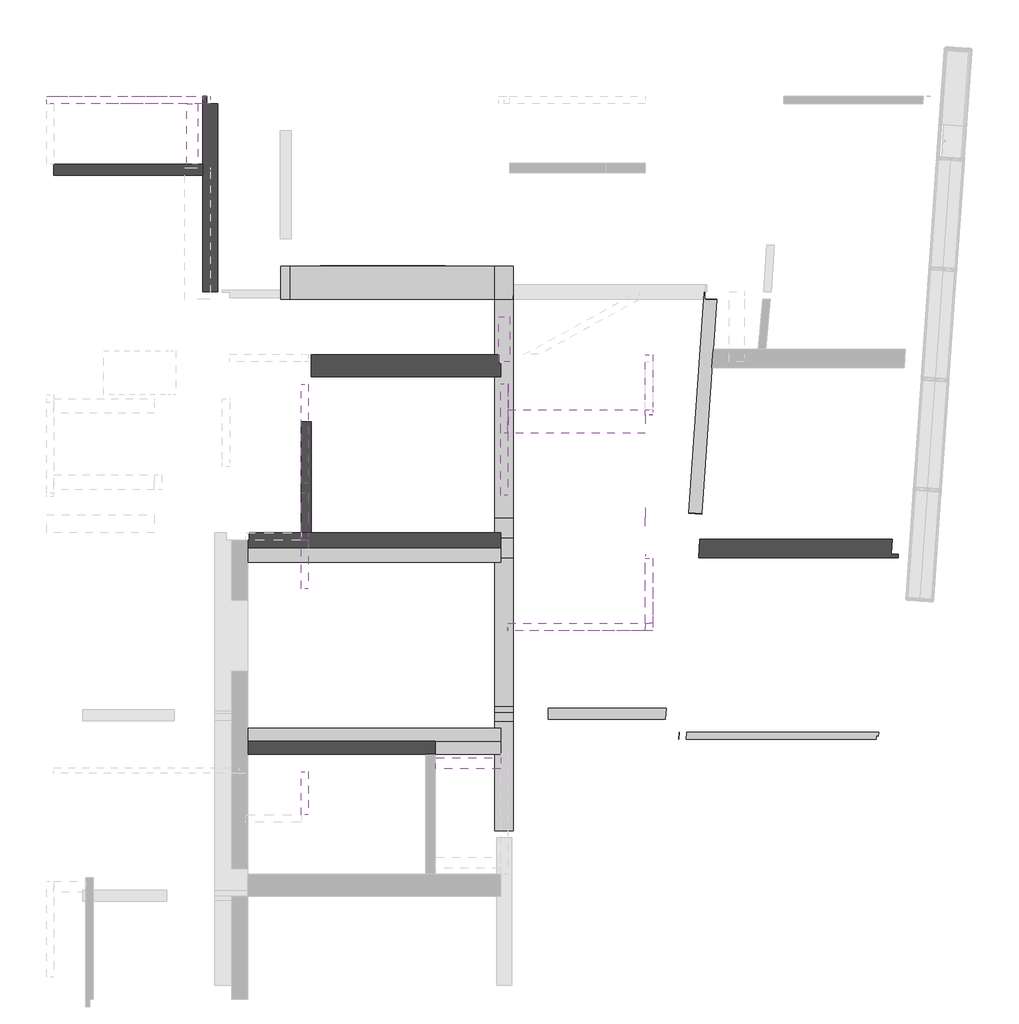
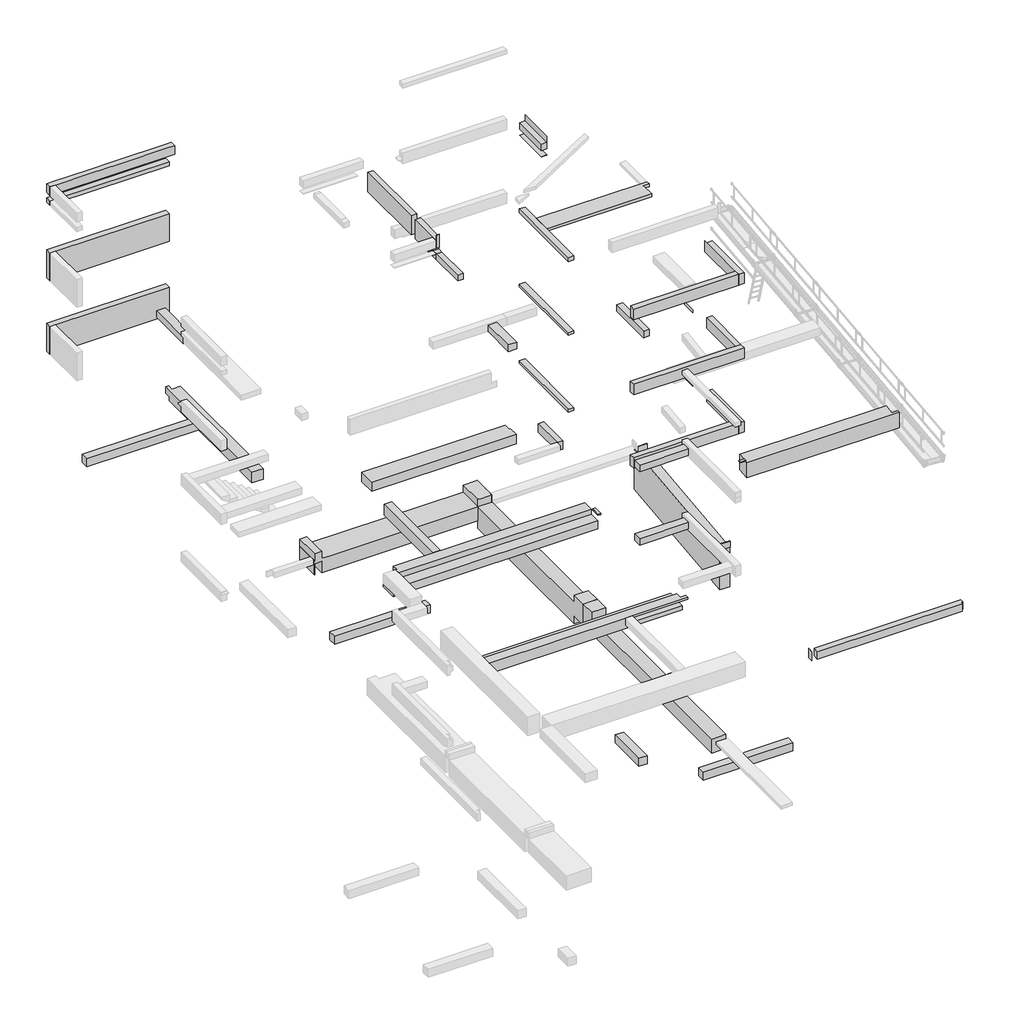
# One storey, part 2 of 3: 41 beams.
"""IFC4 building model written with IfcOpenShell, lengths in millimetres."""

from ifc_helpers import new_model, si_unit, frame, origin, place, context, project, spatial, polyline, outline, extrude, faceted_brep, element, save

model = new_model("IFC4")

# Units and contexts
model_context = context("Model", 3, world=origin())
ifc_project = project(units=[si_unit("LENGTHUNIT", "METRE", prefix="MILLI")], contexts=[model_context])

# Site, building, storey
site = spatial("IfcSite", under=ifc_project)
building = spatial("IfcBuilding", under=site)
storey = spatial("IfcBuildingStorey", under=building, Name="02-Plateau 2", Elevation=2400.0)

# Beams
placement = place(None, origin())
element("IfcBeam", 1, ObjectType="Poutre rectangulaire - Béton : Coulée en place700x650 mm", at=placement, inside=storey, context=model_context, shape_type="Brep", body=[
    faceted_brep([(6232.9552204, 1819.8622276, 3560.0), (6232.9552204, 1819.8622276, 3360.0), (-642.0447796, 1819.8622276, 3360.0), (-642.0447796, 1819.8622276, 3560.0), (-642.0447796, 1119.8622276, 3360.0), (6232.9552204, 1119.8622276, 3360.0), (6232.9552204, 1119.8622276, 3510.0), (4452.9552204, 1119.8622276, 3510.0), (4452.9552204, 1119.8622276, 3690.0), (6432.9552204, 1119.8622276, 3690.0), (6432.9552204, 1119.8622276, 3760.0), (4452.9552204, 1119.8622276, 3760.0), (4202.9552204, 1119.8622276, 3760.0), (-642.0447796, 1119.8622276, 3760.0), (-642.0447796, 1469.8622276, 3760.0), (-642.0447796, 1469.8622276, 3560.0), (6432.9552204, 1259.8622276, 3690.0), (6232.9552204, 1259.8622276, 3690.0), (6232.9552204, 1259.8622276, 3760.0), (6432.9552204, 1259.8622276, 3760.0), (6232.9552204, 1469.8622276, 3690.0), (6232.9552204, 1469.8622276, 3760.0), (4452.9552204, 1469.8622276, 3760.0), (4767.8295439, 1469.8622276, 3510.0), (4452.9552204, 1469.8622276, 3510.0), (6232.9552204, 1259.8622276, 3510.0), (6232.9552204, 1469.8622276, 3510.0), (4452.9552204, 1469.8622276, 3690.0), (4767.8295439, 1469.8622276, 3690.0), (4452.9552204, 1469.8622276, 3560.0), (4767.8295439, 1469.8622276, 3560.0), (6232.9552204, 1469.8622276, 3560.0)], [[[0, 1, 2, 3]], [[4, 2, 1, 5]], [[5, 6, 7, 8, 9, 10, 11, 12, 13, 4]], [[2, 4, 13, 14, 15, 3]], [[16, 17, 18, 19]], [[17, 20, 21, 18]], [[13, 12, 11, 10, 19, 18, 21, 22, 14]], [[23, 24, 7, 6, 25, 26]], [[8, 27, 28, 20, 17, 16, 9]], [[7, 24, 29, 27, 8]], [[24, 23, 30, 29]], [[23, 26, 31, 30]], [[15, 29, 30, 31, 0, 3]], [[29, 15, 14, 22, 27]], [[20, 28, 27, 22, 21]], [[6, 5, 1, 0, 31, 26, 25]], [[19, 10, 9, 16]]]),
])
element("IfcBeam", 2, ObjectType="Poutre rectangulaire - Béton : Coulée en place800x750 mm", at=placement, inside=storey, context=model_context, shape_type="Brep", body=[
    faceted_brep([(6232.9552204, 6329.8622276, 3760.0), (6332.9552204, 6329.8622276, 3760.0), (6332.9552204, 6329.8622276, 3810.0), (6232.9552204, 6329.8622276, 3810.0), (6232.9552204, 6559.8622276, 3760.0), (6232.9552204, 6659.8622276, 3760.0), (6332.9552204, 6659.8622276, 3760.0), (6232.9552204, 6559.8622276, 3810.0), (6232.9552204, 6659.8622276, 3810.0), (6332.9552204, 6659.8622276, 3810.0)], [[[0, 1, 2, 3]], [[1, 0, 4, 5, 6]], [[4, 0, 3, 7]], [[5, 4, 7, 8]], [[3, 2, 9, 8, 7]], [[6, 5, 8, 9]], [[1, 6, 9, 2]]]),
    faceted_brep([(6232.9552204, 7129.8622276, 3260.0), (6232.9552204, 6329.8622276, 3260.0), (-1072.0447796, 6329.8622276, 3260.0), (-1072.0447796, 6929.8622276, 3260.0), (-597.0447796, 6929.8622276, 3260.0), (-597.0447796, 7129.8622276, 3260.0), (6232.9552204, 7129.8622276, 3760.0), (-597.0447796, 7129.8622276, 3760.0), (6232.9552204, 6729.8622276, 3760.0), (6232.9552204, 6729.8622276, 3560.0), (6232.9552204, 6559.8622276, 3560.0), (6232.9552204, 6329.8622276, 3560.0), (-1072.0447796, 6329.8622276, 3360.0), (-1072.0447796, 6929.8622276, 3360.0), (-642.0447796, 6929.8622276, 3760.0), (-642.0447796, 6929.8622276, 3360.0), (-642.0447796, 6329.8622276, 3360.0), (-642.0447796, 6329.8622276, 3560.0), (-642.0447796, 6729.8622276, 3560.0), (-642.0447796, 6729.8622276, 3760.0), (-597.0447796, 6929.8622276, 3760.0)], [[[0, 1, 2, 3, 4, 5]], [[6, 0, 5, 7]], [[1, 0, 6, 8, 9, 10, 11]], [[2, 12, 13, 3]], [[14, 15, 16, 17, 18, 19]], [[12, 16, 15, 13]], [[20, 4, 3, 13, 15, 14]], [[4, 20, 7, 5]], [[6, 7, 20, 14, 19, 8]], [[9, 18, 17, 11, 10]], [[18, 9, 8, 19]], [[12, 2, 1, 11, 17, 16]]]),
])
element("IfcBeam", 3, ObjectType="Poutre rectangulaire - Béton : Coulée en place270x660 mm", at=placement, inside=storey, context=model_context, shape_type="SweptSolid", body=[
    extrude(outline(polyline([(1082.9552204, 7137.1622276), (812.9552204, 7137.1622276), (812.9552204, 10149.8622276), (1082.9552204, 10149.8622276), (1082.9552204, 7137.1622276)])), frame((0.0, 0.0, 3350.0), z_axis=(0.0, 0.0, 1.0), x_axis=(1.0, 0.0, 0.0)), (0.0, 0.0, 1.0), 410.0),
])
element("IfcBeam", 4, ObjectType="Poutre rectangulaire - Béton : Coulée en place600x600 mm", at=placement, inside=storey, context=model_context, shape_type="SweptSolid", body=[
    extrude(outline(polyline([(6232.9552204, 11729.8622276), (6232.9552204, 11379.8622276), (1082.9552204, 11379.8622276), (1082.9552204, 11979.8622276), (6182.9552204, 11979.8622276), (6182.9552204, 11729.8622276), (6232.9552204, 11729.8622276)])), frame((0.0, 0.0, 3410.0), z_axis=(0.0, 0.0, 1.0), x_axis=(1.0, 0.0, 0.0)), (0.0, 0.0, 1.0), 350.0),
])
element("IfcBeam", 5, ObjectType="Poutre rectangulaire - Béton : Coulée en place500x800 mm", at=placement, inside=storey, context=model_context, shape_type="Brep", body=[
    faceted_brep([(11620.033809, 6459.8622276, 3210.0), (17042.9193037, 6459.8622276, 3210.0), (17042.9193037, 6459.8622276, 3780.0), (11620.033809, 6459.8622276, 3780.0), (11620.033809, 6459.8622276, 3490.0), (16877.3943301, 6959.8622276, 3210.0), (16849.9113901, 6566.837875, 3210.0), (17049.4242002, 6552.8865803, 3210.0), (11654.997215, 6959.8622276, 3210.0), (16877.3943301, 6959.8622276, 3780.0), (11654.997215, 6959.8622276, 3780.0), (16849.9113901, 6566.837875, 3780.0), (11434.634224, 6659.8622276, 3780.0), (11434.634224, 6566.3058488, 3780.0), (11434.634224, 6566.3058488, 3810.0), (11434.634224, 6659.8622276, 3810.0), (17049.4242002, 6552.8865803, 3780.0), (11626.5387054, 6552.8865803, 3780.0), (11634.0191714, 6659.8622276, 3780.0), (11626.5387054, 6552.8865803, 3810.0), (11634.0191714, 6659.8622276, 3810.0)], [[[0, 1, 2, 3, 4]], [[5, 6, 7, 1, 0, 8]], [[9, 5, 8, 10]], [[6, 5, 9, 11]], [[12, 13, 14, 15]], [[1, 7, 16, 2]], [[10, 8, 0, 4, 3, 17, 18]], [[15, 14, 19, 20]], [[18, 17, 3, 2, 16, 11, 9, 10]], [[18, 20, 19, 17]], [[20, 18, 12, 15]], [[18, 17, 13, 12]], [[13, 17, 19, 14]], [[6, 11, 16, 7]]]),
])
element("IfcBeam", 6, ObjectType="Poutre rectangulaire - Béton : Coulée en place 40x65", at=placement, inside=storey, context=model_context, shape_type="Brep", body=[
    faceted_brep([(-1857.0447796, 13679.8622276, 3360.0), (-1857.0447796, 13679.8622276, 3760.0), (-1857.0447796, 16849.8622276, 3760.0), (-1857.0447796, 17149.8622276, 3760.0), (-1857.0447796, 18999.8622276, 3760.0), (-1857.0447796, 18999.8622276, 3690.0), (-1857.0447796, 18999.8622276, 3510.0), (-1857.0447796, 18799.8622276, 3510.0), (-1857.0447796, 18799.8622276, 3360.0), (-1457.0447796, 18799.8622276, 3360.0), (-1457.0447796, 13679.8622276, 3360.0), (-1457.0447796, 18799.8622276, 3760.0), (-1457.0447796, 13679.8622276, 3760.0), (-1757.0447796, 18999.8622276, 3760.0), (-1757.0447796, 18999.8622276, 3510.0), (-1757.0447796, 18799.8622276, 3510.0), (-1757.0447796, 18799.8622276, 3760.0)], [[[0, 1, 2, 3, 4, 5, 6, 7, 8]], [[8, 9, 10, 0]], [[9, 11, 12, 10]], [[4, 13, 14, 6, 5]], [[8, 7, 15, 16, 11, 9]], [[1, 0, 10, 12]], [[4, 3, 2, 1, 12, 11, 16, 13]], [[15, 7, 6, 14]], [[13, 16, 15, 14]]]),
])
element("IfcBeam", 7, ObjectType="Poutre rectangulaire - Béton : Coulée en place 30x55", at=placement, inside=storey, context=model_context, shape_type="Brep", body=[
    faceted_brep([(-5907.0447796, 16849.8622276, 3760.0), (-5907.0447796, 16849.8622276, 3460.0), (-1857.0447796, 16849.8622276, 3460.0), (-1857.0447796, 16849.8622276, 3760.0), (-5907.0447796, 17149.8622276, 3460.0), (-1857.0447796, 17149.8622276, 3460.0), (-5907.0447796, 17149.8622276, 3760.0), (-1857.0447796, 17149.8622276, 3760.0), (-1857.0447796, 17149.8622276, 3690.0), (-1857.0447796, 17149.8622276, 3510.0)], [[[0, 1, 2, 3]], [[1, 4, 5, 2]], [[4, 6, 7, 8, 9, 5]], [[1, 0, 6, 4]], [[6, 0, 3, 7]], [[3, 2, 5, 9, 8, 7]]]),
])
element("IfcBeam", 8, ObjectType="Poutre rectangulaire - Béton : Coulée en place 20x35", at=placement, inside=storey, context=model_context, shape_type="SweptSolid", body=[
    extrude(outline(polyline([(6232.9552204, 11179.8622276), (6432.9552204, 11179.8622276), (6432.9552204, 8159.8622276), (6232.9552204, 8159.8622276), (6232.9552204, 11179.8622276)])), frame((0.0, 0.0, 6550.0), z_axis=(0.0, 0.0, 1.0), x_axis=(1.0, 0.0, 0.0)), (0.0, 0.0, 1.0), 100.0),
])
element("IfcBeam", 9, ObjectType="Poutre rectangulaire - Béton : Coulée en place 20x105", at=placement, inside=storey, context=model_context, shape_type="Brep", body=[
    faceted_brep([(-6107.0447796, 18999.8622276, 6590.0), (-6107.0447796, 18999.8622276, 7640.0), (-1857.0447796, 18999.8622276, 7640.0), (-1857.0447796, 18999.8622276, 6970.0), (-1857.0447796, 18999.8622276, 6770.0), (-1857.0447796, 18999.8622276, 6590.0), (-1857.0447796, 18799.8622276, 6590.0), (-5907.0447796, 18799.8622276, 6590.0), (-6107.0447796, 18799.8622276, 6590.0), (-6107.0447796, 18799.8622276, 7640.0), (-1857.0447796, 18799.8622276, 6660.0), (-1857.0447796, 18799.8622276, 6770.0), (-1857.0447796, 18799.8622276, 6900.0), (-1857.0447796, 18799.8622276, 6970.0), (-1857.0447796, 18799.8622276, 7640.0), (-5907.0447796, 18799.8622276, 7640.0)], [[[0, 1, 2, 3, 4, 5]], [[5, 6, 7, 8, 0]], [[9, 8, 7, 6, 10, 11, 12, 13, 14, 15]], [[1, 9, 15, 14, 2]], [[6, 5, 4, 3, 2, 14, 13, 12, 11, 10]], [[1, 0, 8, 9]]]),
])
element("IfcBeam", 10, ObjectType="Poutre rectangulaire - Béton : Coulée en place 20x40", at=placement, inside=storey, context=model_context, shape_type="Brep", body=[
    faceted_brep([(10173.5257924, 4670.830828, 6990.0), (10173.5257924, 4670.830828, 6590.0), (6432.9552204, 4670.830828, 6590.0), (6432.9552204, 4670.830828, 6660.0), (6432.9552204, 4670.830828, 6900.0), (6432.9552204, 4670.830828, 6990.0), (10173.5257924, 4470.830828, 6590.0), (6432.9552204, 4470.830828, 6590.0), (6432.9552204, 4470.830828, 6990.0), (6432.9552204, 4470.830828, 6900.0), (6432.9552204, 4470.830828, 6650.0), (10173.5257924, 4470.830828, 6990.0)], [[[0, 1, 2, 3, 4, 5]], [[6, 7, 2, 1]], [[8, 9, 10, 7, 6, 11]], [[11, 0, 5, 8]], [[2, 7, 10, 9, 8, 5, 4, 3]], [[1, 0, 11, 6]]]),
])
element("IfcBeam", 11, ObjectType="Poutre rectangulaire - Béton : Coulée en place 20x105", at=placement, inside=storey, context=model_context, shape_type="Brep", body=[
    faceted_brep([(-6107.0447796, 18999.8622276, 9360.0), (-6107.0447796, 18999.8622276, 10410.0), (-1857.0447796, 18999.8622276, 10410.0), (-1857.0447796, 18999.8622276, 9740.0), (-1857.0447796, 18999.8622276, 9540.0), (-1857.0447796, 18999.8622276, 9360.0), (-1857.0447796, 18799.8622276, 9360.0), (-5907.0447796, 18799.8622276, 9360.0), (-6107.0447796, 18799.8622276, 9360.0), (-6107.0447796, 18799.8622276, 10410.0), (-1857.0447796, 18799.8622276, 9430.0), (-1857.0447796, 18799.8622276, 9540.0), (-1857.0447796, 18799.8622276, 9670.0), (-1857.0447796, 18799.8622276, 9740.0), (-1857.0447796, 18799.8622276, 10410.0), (-5907.0447796, 18799.8622276, 10410.0)], [[[0, 1, 2, 3, 4, 5]], [[5, 6, 7, 8, 0]], [[9, 8, 7, 6, 10, 11, 12, 13, 14, 15]], [[1, 9, 15, 14, 2]], [[6, 5, 4, 3, 2, 14, 13, 12, 11, 10]], [[1, 0, 8, 9]]]),
])
element("IfcBeam", 12, ObjectType="Poutre rectangulaire - Béton : Coulée en place 20x30", at=placement, inside=storey, context=model_context, shape_type="SweptSolid", body=[
    extrude(outline(polyline([(6432.9552204, 8159.8622276), (6232.9552204, 8159.8622276), (6232.9552204, 11179.8622276), (6432.9552204, 11179.8622276), (6432.9552204, 8159.8622276)])), frame((0.0, 0.0, 9440.0), z_axis=(0.0, 0.0, 1.0), x_axis=(1.0, 0.0, 0.0)), (0.0, 0.0, 1.0), 100.0),
])
element("IfcBeam", 13, ObjectType="Poutre rectangulaire - Béton : Coulée en place 20x40", at=placement, inside=storey, context=model_context, shape_type="Brep", body=[
    faceted_brep([(10373.5257924, 4470.830828, 9360.0), (10373.5257924, 4470.830828, 9760.0), (6432.9552204, 4470.830828, 9760.0), (6432.9552204, 4470.830828, 9360.0), (6432.9552204, 4670.830828, 9360.0), (10173.5257924, 4670.830828, 9360.0), (10373.5257924, 4670.830828, 9360.0), (10373.5257924, 4670.830828, 9760.0), (6432.9552204, 4670.830828, 9430.0), (6432.9552204, 4670.830828, 9670.0), (6432.9552204, 4670.830828, 9760.0), (10173.5257924, 4670.830828, 9760.0)], [[[0, 1, 2, 3]], [[3, 4, 5, 6, 0]], [[7, 6, 5, 4, 8, 9, 10, 11]], [[1, 7, 11, 10, 2]], [[4, 3, 2, 10, 9, 8]], [[1, 0, 6, 7]]]),
])
element("IfcBeam", 14, ObjectType="Poutre rectangulaire - Béton : Coulée en place 20x35", at=placement, inside=storey, context=model_context, shape_type="Brep", body=[
    faceted_brep([(6232.9552204, 11179.8622276, 12370.0), (6232.9552204, 11179.8622276, 12220.0), (6232.9552204, 8159.8622276, 12220.0), (6232.9552204, 8159.8622276, 12370.0), (6432.9552204, 11179.8622276, 12220.0), (6432.9552204, 8159.8622276, 12220.0), (6432.9552204, 11179.8622276, 12370.0), (6432.9552204, 10479.8622276, 12370.0), (6432.9552204, 9839.8622276, 12370.0), (6432.9552204, 8159.8622276, 12370.0)], [[[0, 1, 2, 3]], [[1, 4, 5, 2]], [[4, 6, 7, 8, 9, 5]], [[4, 1, 0, 6]], [[6, 0, 3, 9, 8, 7]], [[3, 2, 5, 9]]]),
])
element("IfcBeam", 15, ObjectType="Poutre rectangulaire - Béton : Coulée en place 64x30", at=placement, inside=storey, context=model_context, shape_type="Brep", body=[
    faceted_brep([(10173.5257924, 9839.8622276, 12270.0), (10173.5257924, 9839.8622276, 12370.0), (6432.9552204, 9839.8622276, 12370.0), (6432.9552204, 9839.8622276, 12270.0), (10173.5257924, 10343.530828, 12270.0), (6432.9552204, 10479.8622276, 12270.0), (10173.5257924, 10479.8622276, 12270.0), (10373.5257924, 10479.8622276, 12270.0), (10373.5257924, 10343.530828, 12270.0), (6432.9552204, 10479.8622276, 12370.0), (10173.5257924, 10479.8622276, 12370.0), (10373.5257924, 10479.8622276, 12370.0), (10373.5257924, 10343.530828, 12370.0), (10173.5257924, 10343.530828, 12370.0)], [[[0, 1, 2, 3]], [[4, 0, 3, 5, 6, 7, 8]], [[7, 6, 5, 9, 10, 11]], [[8, 7, 11, 12]], [[1, 0, 4, 13]], [[5, 3, 2, 9]], [[13, 4, 8, 12]], [[2, 1, 13, 12, 11, 10, 9]]]),
])
element("IfcBeam", 16, ObjectType="Poutre rectangulaire - Béton : Coulée en place 20x32", at=placement, inside=storey, context=model_context, shape_type="SweptSolid", body=[
    extrude(outline(polyline([(812.9552204, 642.4340998), (1012.9552204, 642.4340998), (1012.9552204, -530.1377724), (812.9552204, -530.1377724), (812.9552204, 642.4340998)])), frame((0.0, 0.0, 12250.0), z_axis=(0.0, 0.0, 1.0), x_axis=(1.0, 0.0, 0.0)), (0.0, 0.0, 1.0), 320.0),
])
element("IfcBeam", 17, ObjectType="Poutre rectangulaire - Béton : Coulée en place 20x92", at=placement, inside=storey, context=model_context, shape_type="Brep", body=[
    faceted_brep([(812.9552204, 8227.4340998, 14930.0), (812.9552204, 6927.4693193, 14930.0), (812.9552204, 6927.4693193, 15150.0), (812.9552204, 6929.8622276, 15150.0), (812.9552204, 7129.8622276, 15150.0), (812.9552204, 7129.8622276, 15370.0), (812.9552204, 6929.8622276, 15370.0), (812.9552204, 6927.4693193, 15370.0), (812.9552204, 6927.4693193, 15850.0), (812.9552204, 6929.8622276, 15850.0), (812.9552204, 6929.8622276, 15650.0), (812.9552204, 7129.8622276, 15650.0), (812.9552204, 8227.4340998, 15650.0), (1012.9552204, 8227.4340998, 14930.0), (1012.9552204, 6929.8622276, 14930.0), (912.9552204, 6929.8622276, 14930.0), (912.9552204, 6927.4693193, 14930.0), (1012.9552204, 8227.4340998, 15620.0), (1012.9552204, 7129.8622276, 15620.0), (1012.9552204, 7129.8622276, 15150.0), (1012.9552204, 6929.8622276, 15150.0), (912.9552204, 6929.8622276, 15850.0), (912.9552204, 6927.4693193, 15850.0), (912.9552204, 6927.4693193, 15370.0), (1008.9552204, 8227.4340998, 15650.0), (1008.9552204, 8227.4340998, 15620.0), (912.9552204, 7129.8622276, 15370.0), (912.9552204, 7129.8622276, 15150.0), (1008.9552204, 7129.8622276, 15620.0), (1008.9552204, 7129.8622276, 15650.0), (912.9552204, 7129.8622276, 15650.0), (912.9552204, 6927.4693193, 15150.0), (912.9552204, 6929.8622276, 15150.0), (912.9552204, 6929.8622276, 15370.0), (912.9552204, 6929.8622276, 15650.0)], [[[0, 1, 2, 3, 4, 5, 6, 7, 8, 9, 10, 11, 12]], [[1, 0, 13, 14, 15, 16]], [[14, 13, 17, 18, 19, 20]], [[21, 9, 8, 22]], [[22, 8, 7, 23]], [[13, 0, 12, 24, 25, 17]], [[26, 5, 4, 27, 19, 18, 28, 29, 30]], [[20, 19, 27, 4, 3, 2, 31, 32]], [[5, 26, 33, 23, 7, 6]], [[12, 11, 10, 34, 30, 29, 24]], [[25, 28, 18, 17]], [[28, 25, 24, 29]], [[10, 9, 21, 34]], [[16, 15, 32, 31]], [[15, 14, 20, 32]], [[1, 16, 31, 2]], [[26, 30, 34, 21, 22, 23, 33]]]),
])
element("IfcBeam", 18, ObjectType="Poutre rectangulaire - Béton : Coulée en place 20x43", at=placement, inside=storey, context=model_context, shape_type="SweptSolid", body=[
    extrude(outline(polyline([(1012.9552204, 5612.4340998), (812.9552204, 5612.4340998), (812.9552204, 6927.4693193), (912.9552204, 6927.4693193), (912.9552204, 6929.8622276), (1012.9552204, 6929.8622276), (1012.9552204, 5612.4340998)])), frame((0.0, 0.0, 14930.0), z_axis=(0.0, 0.0, 1.0), x_axis=(1.0, 0.0, 0.0)), (0.0, 0.0, 1.0), 220.0),
])
element("IfcBeam", 19, ObjectType="Poutre rectangulaire - Béton : Coulée en place 20x92", at=placement, inside=storey, context=model_context, shape_type="SweptSolid", body=[
    extrude(outline(polyline([(15650.0, 812.9552204), (14930.0, 812.9552204), (14930.0, 1012.9552204), (15620.0, 1012.9552204), (15620.0, 1008.9552204), (15650.0, 1008.9552204), (15650.0, 812.9552204)])), frame((0.0, 8477.4340998, 0.0), z_axis=(0.0, 1.0, 0.0), x_axis=(0.0, 0.0, 1.0)), (0.0, 0.0, 1.0), 2689.992968),
])
element("IfcBeam", 20, ObjectType="Poutre rectangulaire - Béton : Coulée en place 20x69", at=placement, inside=storey, context=model_context, shape_type="Brep", body=[
    faceted_brep([(-5907.0447796, 18799.8622276, 12900.0), (-6107.0447796, 18799.8622276, 12900.0), (-6107.0447796, 18799.8622276, 12570.0), (-5907.0447796, 18799.8622276, 12570.0), (-1657.0447796, 18799.8622276, 12570.0), (-1657.0447796, 18799.8622276, 12840.0), (-1657.0447796, 18799.8622276, 12900.0), (-1857.0447796, 18799.8622276, 12900.0), (-3647.0447796, 18799.8622276, 12900.0), (-4647.0447796, 18799.8622276, 12900.0), (-6107.0447796, 18999.8622276, 12900.0), (-1657.0447796, 18999.8622276, 12900.0), (-1857.0447796, 18999.8622276, 12900.0), (-3647.0447796, 18999.8622276, 12900.0), (-4647.0447796, 18999.8622276, 12900.0), (-5907.0447796, 18999.8622276, 12900.0), (-6107.0447796, 18999.8622276, 12570.0), (-1657.0447796, 18999.8622276, 12570.0), (-1657.0447796, 18999.8622276, 12840.0)], [[[0, 1, 2, 3, 4, 5, 6, 7, 8, 9]], [[10, 1, 0, 9, 8, 7, 6, 11, 12, 13, 14, 15]], [[16, 17, 4, 3, 2]], [[11, 6, 5, 4, 17, 18]], [[17, 16, 10, 15, 14, 13, 12, 11, 18]], [[1, 10, 16, 2]]]),
    faceted_brep([(-6107.0447796, 18799.8622276, 12210.0), (-6107.0447796, 18999.8622276, 12210.0), (-1857.0447796, 18999.8622276, 12210.0), (-1857.0447796, 18799.8622276, 12210.0), (-5907.0447796, 18799.8622276, 12210.0), (-6107.0447796, 18999.8622276, 12370.0), (-1857.0447796, 18999.8622276, 12370.0), (-6107.0447796, 18799.8622276, 12370.0), (-5907.0447796, 18799.8622276, 12370.0), (-1857.0447796, 18799.8622276, 12370.0)], [[[0, 1, 2, 3, 4]], [[1, 5, 6, 2]], [[1, 0, 7, 5]], [[5, 7, 8, 9, 6]], [[3, 2, 6, 9]], [[7, 0, 4, 3, 9, 8]]]),
])
element("IfcBeam", 21, ObjectType="Poutre rectangulaire - Béton : Coulée en place 20x40", at=placement, inside=storey, context=model_context, shape_type="Brep", body=[
    faceted_brep([(6440.2552204, 4670.830828, 12590.0), (6440.2552204, 4670.830828, 12190.0), (6440.2552204, 4470.830828, 12190.0), (6440.2552204, 4470.830828, 12590.0), (10172.9552204, 4670.830828, 12590.0), (10172.9552204, 4670.830828, 12500.0), (10172.9552204, 4670.830828, 12260.0), (10172.9552204, 4670.830828, 12190.0), (10172.9552204, 4470.830828, 12190.0), (10172.9552204, 4470.830828, 12590.0)], [[[0, 1, 2, 3]], [[1, 0, 4, 5, 6, 7]], [[2, 1, 7, 8]], [[3, 2, 8, 9]], [[0, 3, 9, 4]], [[7, 6, 5, 4, 9, 8]]]),
])
element("IfcBeam", 22, ObjectType="Poutre rectangulaire - Béton : Coulée en place 90x80", at=placement, inside=storey, context=model_context, shape_type="Brep", body=[
    faceted_brep([(6580.6552204, 13479.8622276, -720.0), (6580.6552204, 13579.8622276, -720.0), (6580.6552204, 14379.8622276, -720.0), (6580.6552204, 14379.8622276, 80.0), (6580.6552204, 13879.8622276, 80.0), (6580.6552204, 13579.8622276, 80.0), (6580.6552204, 13479.8622276, 80.0), (6580.6552204, 13479.8622276, -190.0), (255.2552204, 14379.8622276, -720.0), (255.2552204, 13479.8622276, -720.0), (255.2552204, 13479.8622276, -190.0), (255.2552204, 13529.8622276, -190.0), (255.2552204, 13729.8622276, -190.0), (255.2552204, 14379.8622276, -190.0), (507.9552204, 13479.8622276, -720.0), (6082.9552204, 13479.8622276, -720.0), (6482.9552204, 13479.8622276, 80.0), (6182.9552204, 13479.8622276, 80.0), (6082.9552204, 13479.8622276, 80.0), (6082.9552204, 13479.8622276, -190.0), (812.9552204, 13479.8622276, -190.0), (507.9552204, 13479.8622276, -190.0), (507.9552204, 13479.8622276, -150.0), (507.9552204, 13479.8622276, 80.0), (257.9552204, 13479.8622276, 80.0), (257.9552204, 13479.8622276, -150.0), (257.9552204, 13479.8622276, -190.0), (257.9552204, 13479.8622276, -720.0), (257.9552204, 13479.8622276, -300.0), (507.9552204, 13479.8622276, -300.0), (507.9552204, 14379.8622276, -720.0), (6082.9552204, 14379.8622276, -720.0), (6182.9552204, 14379.8622276, -720.0), (6182.9552204, 14279.8622276, -720.0), (6482.9552204, 14279.8622276, -720.0), (6482.9552204, 14379.8622276, -720.0), (6482.9552204, 14379.8622276, -190.0), (6182.9552204, 14379.8622276, -190.0), (507.9552204, 14379.8622276, -300.0), (257.9552204, 14379.8622276, -300.0), (257.9552204, 14379.8622276, -720.0), (257.9552204, 14379.8622276, -190.0), (257.9552204, 14379.8622276, 80.0), (507.9552204, 14379.8622276, 80.0), (507.9552204, 14379.8622276, -190.0), (6082.9552204, 14379.8622276, -190.0), (6082.9552204, 14379.8622276, 80.0), (6482.9552204, 14379.8622276, 80.0), (6182.9552204, 14279.8622276, -190.0), (6482.9552204, 14279.8622276, -190.0), (257.9552204, 13679.8622276, 80.0), (507.9552204, 13679.8622276, 80.0)], [[[0, 1, 2, 3, 4, 5, 6, 7]], [[8, 9, 10, 11, 12, 13]], [[14, 15, 0, 7, 6, 16, 17, 18, 19, 20, 21, 22, 23, 24, 25, 26, 10, 9, 27, 28, 29]], [[2, 1, 0, 15, 14, 30, 31, 32, 33, 34, 35]], [[3, 2, 35, 36, 37, 32, 31, 30, 38, 39, 40, 8, 13, 41, 42, 43, 44, 45, 46, 47]], [[6, 5, 4, 3, 47, 46, 18, 17, 16]], [[29, 38, 30, 14]], [[38, 29, 28, 39]], [[48, 33, 32, 37]], [[34, 49, 36, 35]], [[33, 48, 49, 34]], [[39, 28, 27, 40]], [[9, 8, 40, 27]], [[20, 19, 45, 44, 21]], [[49, 48, 37, 36]], [[41, 26, 25, 24, 50, 42]], [[21, 44, 43, 51, 23, 22]], [[24, 23, 51, 43, 42, 50]], [[13, 12, 11, 10, 26, 41]], [[45, 19, 18, 46]]]),
])
element("IfcBeam", 23, ObjectType="Poutre rectangulaire - Béton : Coulée en place 50x80", at=placement, inside=storey, context=model_context, shape_type="Brep", body=[
    faceted_brep([(6582.9552204, 2247.1622276, -720.0), (6582.9552204, 2409.8622276, -720.0), (6582.9552204, 6459.8622276, -720.0), (6582.9552204, 6979.8622276, -720.0), (6582.9552204, 6979.8622276, -150.0), (6582.9552204, 6979.8622276, 80.0), (6582.9552204, 6459.8622276, 80.0), (6582.9552204, 6459.8622276, -150.0), (6582.9552204, 6459.8622276, -190.0), (6582.9552204, 2409.8622276, -190.0), (6582.9552204, 2409.8622276, -150.0), (6582.9552204, 2409.8622276, 80.0), (6582.9552204, 2247.1622276, 80.0), (6582.9552204, 2247.1622276, -150.0), (6082.9552204, 2247.1622276, -720.0), (6082.9552204, 2409.8622276, -720.0), (6082.9552204, 6459.8622276, -720.0), (6082.9552204, 6979.8622276, -720.0), (6082.9552204, 2247.1622276, -190.0), (6082.9552204, 2247.1622276, 80.0), (6082.9552204, 2409.8622276, 80.0), (6082.9552204, 2409.8622276, -190.0), (6082.9552204, 6459.8622276, -190.0), (6082.9552204, 6459.8622276, 80.0), (6082.9552204, 6979.8622276, 80.0), (6082.9552204, 6979.8622276, -190.0), (6432.9552204, 6459.8622276, 80.0)], [[[0, 1, 2, 3, 4, 5, 6, 7, 8, 9, 10, 11, 12, 13]], [[3, 2, 1, 0, 14, 15, 16, 17]], [[17, 16, 15, 14, 18, 19, 20, 21, 22, 23, 24, 25]], [[5, 24, 23, 26, 6]], [[12, 19, 18, 14, 0, 13]], [[3, 17, 25, 24, 5, 4]], [[9, 8, 22, 21]], [[22, 8, 7, 6, 26, 23]], [[9, 21, 20, 11, 10]], [[19, 12, 11, 20]]]),
])
element("IfcBeam", 24, ObjectType="Poutre rectangulaire - Béton : Coulée en place 50x80", at=placement, inside=storey, context=model_context, shape_type="Brep", body=[
    faceted_brep([(6582.9552204, -960.1377724, -190.0), (6582.9552204, -960.1377724, -720.0), (6582.9552204, 2009.8622276, -720.0), (6582.9552204, 2247.1622276, -720.0), (6582.9552204, 2247.1622276, -150.0), (6582.9552204, 2247.1622276, 80.0), (6582.9552204, 2009.8622276, 80.0), (6582.9552204, 2009.8622276, -150.0), (6582.9552204, 2009.8622276, -190.0), (6082.9552204, -960.1377724, -720.0), (6082.9552204, 2009.8622276, -720.0), (6082.9552204, 2247.1622276, -720.0), (6082.9552204, -960.1377724, -190.0), (6082.9552204, 2009.8622276, -190.0), (6082.9552204, 2009.8622276, 80.0), (6082.9552204, 2247.1622276, 80.0), (6082.9552204, 2247.1622276, -190.0)], [[[0, 1, 2, 3, 4, 5, 6, 7, 8]], [[1, 9, 10, 11, 3, 2]], [[9, 12, 13, 14, 15, 16, 11, 10]], [[5, 15, 14, 6]], [[1, 0, 12, 9]], [[3, 11, 16, 15, 5, 4]], [[12, 0, 8, 13]], [[13, 8, 7, 6, 14]]]),
])
element("IfcBeam", 25, ObjectType="Poutre rectangulaire - Béton : Coulée en place 50x108", at=placement, inside=storey, context=model_context, shape_type="Brep", body=[
    faceted_brep([(6582.9552204, 13479.8622276, -1000.0), (6582.9552204, 13479.8622276, -720.0), (6582.9552204, 13579.8622276, -720.0), (6582.9552204, 13579.8622276, -300.0), (6582.9552204, 13579.8622276, -150.0), (6582.9552204, 13579.8622276, 80.0), (6582.9552204, 13479.8622276, 80.0), (6582.9552204, 13479.8622276, -150.0), (6582.9552204, 13479.8622276, -190.0), (6582.9552204, 13439.8622276, -190.0), (6582.9552204, 7529.8622276, -190.0), (6582.9552204, 7529.8622276, -150.0), (6582.9552204, 7529.8622276, 80.0), (6582.9552204, 6979.8622276, 80.0), (6582.9552204, 6979.8622276, -150.0), (6582.9552204, 6979.8622276, -720.0), (6582.9552204, 7529.8622276, -720.0), (6582.9552204, 7529.8622276, -1000.0), (6082.9552204, 13479.8622276, -1000.0), (6082.9552204, 7529.8622276, -1000.0), (6082.9552204, 7529.8622276, -720.0), (6082.9552204, 6979.8622276, -720.0), (6082.9552204, 6979.8622276, -190.0), (6082.9552204, 6979.8622276, 80.0), (6082.9552204, 7529.8622276, 80.0), (6082.9552204, 7529.8622276, -190.0), (6082.9552204, 13479.8622276, -190.0), (6082.9552204, 13479.8622276, -720.0), (6580.6552204, 13579.8622276, 80.0), (6580.6552204, 13479.8622276, 80.0), (6580.6552204, 13579.8622276, -720.0), (6580.6552204, 13579.8622276, -300.0), (6580.6552204, 13479.8622276, -720.0), (6580.6552204, 13479.8622276, -190.0)], [[[0, 1, 2, 3, 4, 5, 6, 7, 8, 9, 10, 11, 12, 13, 14, 15, 16, 17]], [[18, 0, 17, 19]], [[18, 19, 20, 21, 22, 23, 24, 25, 26, 27]], [[5, 28, 29, 6]], [[30, 31, 28, 5, 4, 3, 2]], [[28, 31, 30, 32, 33, 29]], [[32, 1, 0, 18, 27, 26, 33]], [[1, 32, 30, 2]], [[16, 20, 19, 17]], [[20, 16, 15, 21]], [[13, 23, 22, 21, 15, 14]], [[10, 9, 8, 33, 26, 25]], [[6, 29, 33, 8, 7]], [[10, 25, 24, 12, 11]], [[23, 13, 12, 24]]]),
])
element("IfcBeam", 26, ObjectType="Poutre rectangulaire - Béton : Coulée en place 35x173", at=placement, inside=storey, context=model_context, shape_type="Brep", body=[
    faceted_brep([(11702.6506396, 7641.3379502, 80.0), (11353.5032221, 7665.752716, 80.0), (11353.5032221, 7665.752716, -150.0), (11702.6506396, 7641.3379502, -150.0), (11703.6160138, 7655.1434441, -150.0), (11703.6160138, 7655.1434441, -1650.0), (12111.4078136, 13486.837875, -1650.0), (12111.4078136, 13486.837875, 80.0), (12109.9423399, 13465.8806245, 80.0), (12109.9423399, 13465.8806245, -150.0), (11354.4685962, 7679.5582099, -1650.0), (11774.0507269, 13679.8622276, -1650.0), (11789.8015255, 13679.8622276, -1650.0), (11789.8015255, 13486.837875, -1650.0), (11354.4685962, 7679.5582099, -150.0), (11760.0653645, 13479.8622276, -150.0), (11774.0507269, 13679.8622276, -150.0), (11774.0507269, 13679.8622276, -300.0), (11810.239695, 13486.837875, 80.0), (11789.8015255, 13679.8622276, -150.0), (11789.8015255, 13679.8622276, -300.0), (11810.239695, 13486.837875, -150.0), (11789.8015255, 13486.837875, -150.0), (11354.4685962, 7679.5582099, 80.0), (11703.6160138, 7655.1434441, 80.0)], [[[0, 1, 2, 3]], [[4, 5, 6, 7, 8, 9]], [[10, 11, 12, 13, 6, 5]], [[11, 10, 14, 15, 16, 17]], [[8, 7, 18]], [[12, 11, 17, 16, 19, 20]], [[4, 14, 10, 5]], [[14, 4, 3, 2]], [[14, 4, 9, 21, 22, 19, 16, 15]], [[7, 6, 13, 22, 21, 18]], [[13, 12, 20, 19, 22]], [[21, 9, 8, 18]], [[4, 14, 23, 24]], [[0, 3, 4, 24]], [[2, 1, 23, 14]], [[1, 0, 24, 23]]]),
])
element("IfcBeam", 27, ObjectType="Poutre rectangulaire - Béton : Coulée en place 20x55", at=placement, inside=storey, context=model_context, shape_type="SweptSolid", body=[
    extrude(outline(polyline([(16510.9778355, 1719.8622276), (16503.1722526, 1608.237191), (16453.2940501, 1611.7250146), (16446.8703782, 1519.8622276), (11276.4034036, 1519.8622276), (11290.3155212, 1719.8622276), (16510.9778355, 1719.8622276)])), frame((0.0, 0.0, -500.0), z_axis=(0.0, 0.0, 1.0), x_axis=(1.0, 0.0, 0.0)), (0.0, 0.0, 1.0), 280.0),
    extrude(outline(polyline([(11074.1069784, 1519.8622276), (11088.0923408, 1719.8622276), (11089.8322376, 1719.8622276), (11075.9201199, 1519.8622276), (11074.1069784, 1519.8622276)])), frame((0.0, 0.0, -500.0), z_axis=(0.0, 0.0, 1.0), x_axis=(1.0, 0.0, 0.0)), (0.0, 0.0, 1.0), 350.0),
])
element("IfcBeam", 28, ObjectType="Poutre rectangulaire - Béton : longrine 30x30", at=placement, inside=storey, context=model_context, shape_type="SweptSolid", body=[
    extrude(outline(polyline([(7532.9552204, 2064.8622276), (7532.9552204, 2364.8622276), (10733.7322497, 2364.8622276), (10712.8640733, 2064.8622276), (7532.9552204, 2064.8622276)])), frame((0.0, 0.0, -4090.0), z_axis=(0.0, 0.0, 1.0), x_axis=(1.0, 0.0, 0.0)), (0.0, 0.0, 1.0), 300.0),
])
element("IfcBeam", 29, ObjectType="Poutre rectangulaire - Béton : longrine 30x30", at=placement, inside=storey, context=model_context, shape_type="SweptSolid", body=[
    extrude(outline(polyline([(6182.9552204, 5179.8622276), (6482.9552204, 5179.8622276), (6482.9552204, 3709.8622276), (6182.9552204, 3709.8622276), (6182.9552204, 5179.8622276)])), frame((0.0, 0.0, -4090.0), z_axis=(0.0, 0.0, 1.0), x_axis=(1.0, 0.0, 0.0)), (0.0, 0.0, 1.0), 300.0),
])
element("IfcBeam", 30, ObjectType="Poutre rectangulaire - Béton : longrine 30x30", at=placement, inside=storey, context=model_context, shape_type="SweptSolid", body=[
    extrude(outline(polyline([(1332.9552204, 14089.8622276), (1332.9552204, 14389.8622276), (4732.9552204, 14389.8622276), (4732.9552204, 14089.8622276), (1332.9552204, 14089.8622276)])), frame((0.0, 0.0, -4090.0), z_axis=(0.0, 0.0, 1.0), x_axis=(1.0, 0.0, 0.0)), (0.0, 0.0, 1.0), 300.0),
])
element("IfcBeam", 31, ObjectType="Poutre rectangulaire - Béton : BN 20x25", at=placement, inside=storey, context=model_context, shape_type="Brep", body=[
    faceted_brep([(10373.5257924, 10330.9965278, 6900.0), (10173.5257924, 10330.9965278, 6900.0), (10173.5257924, 10330.9965278, 6650.0), (10373.5257924, 10330.9965278, 6650.0), (10373.5257924, 10343.530828, 6650.0), (10373.5257924, 11979.8622276, 6650.0), (10373.5257924, 11979.8622276, 6900.0), (10373.5257924, 10343.530828, 6900.0), (10173.5257924, 10343.530828, 6650.0), (10173.5257924, 11979.8622276, 6650.0), (10173.5257924, 10343.530828, 6900.0), (10173.5257924, 11979.8622276, 6900.0)], [[[0, 1, 2, 3]], [[0, 3, 4, 5, 6, 7]], [[3, 2, 8, 9, 5, 4]], [[2, 1, 10, 11, 9, 8]], [[1, 0, 7, 6, 11, 10]], [[6, 5, 9, 11]]]),
])
element("IfcBeam", 32, ObjectType="Poutre rectangulaire - Béton : BN 30X24", at=placement, inside=storey, context=model_context, shape_type="Brep", body=[
    faceted_brep([(-1997.0447796, 18799.8622276, 6660.0), (-1997.0447796, 18799.8622276, 6900.0), (-1997.0447796, 17149.8622276, 6900.0), (-1997.0447796, 17149.8622276, 6660.0), (-2297.0447796, 17149.8622276, 6660.0), (-2297.0447796, 18799.8622276, 6660.0), (-2297.0447796, 18799.8622276, 6900.0), (-2297.0447796, 17149.8622276, 6770.0), (-2297.0447796, 17149.8622276, 6900.0)], [[[0, 1, 2, 3]], [[3, 4, 5, 0]], [[6, 5, 4, 7, 8]], [[1, 6, 8, 2]], [[1, 0, 5, 6]], [[2, 8, 7, 4, 3]]]),
])
element("IfcBeam", 33, ObjectType="Poutre rectangulaire - Béton : BN 30X24", at=placement, inside=storey, context=model_context, shape_type="Brep", body=[
    faceted_brep([(6232.9552204, 724.8622276, 6900.0), (4478.3552204, 724.8622276, 6900.0), (4478.3552204, 724.8622276, 6770.0), (4478.3552204, 724.8622276, 6660.0), (6232.9552204, 724.8622276, 6660.0), (4478.3552204, 1024.8622276, 6660.0), (6232.9552204, 1024.8622276, 6660.0), (4478.3552204, 1024.8622276, 6770.0), (4478.3552204, 1024.8622276, 6900.0), (6232.9552204, 1024.8622276, 6900.0)], [[[0, 1, 2, 3, 4]], [[3, 5, 6, 4]], [[6, 5, 7, 8, 9]], [[8, 1, 0, 9]], [[1, 8, 7, 5, 3, 2]], [[0, 4, 6, 9]]]),
])
element("IfcBeam", 34, ObjectType="Poutre rectangulaire - Béton : BN 30X24", at=placement, inside=storey, context=model_context, shape_type="Brep", body=[
    faceted_brep([(4478.3552204, 1024.8622276, 9670.0), (6232.9552204, 1024.8622276, 9670.0), (6232.9552204, 1024.8622276, 9430.0), (4478.3552204, 1024.8622276, 9430.0), (4478.3552204, 1024.8622276, 9540.0), (6232.9552204, 724.8622276, 9430.0), (4478.3552204, 724.8622276, 9430.0), (6232.9552204, 724.8622276, 9670.0), (4478.3552204, 724.8622276, 9670.0), (4478.3552204, 724.8622276, 9540.0)], [[[0, 1, 2, 3, 4]], [[3, 2, 5, 6]], [[6, 5, 7, 8, 9]], [[1, 0, 8, 7]], [[2, 1, 7, 5]], [[3, 6, 9, 8, 0, 4]]]),
])
element("IfcBeam", 35, ObjectType="Poutre rectangulaire - Béton : BN 30x25", at=placement, inside=storey, context=model_context, shape_type="Brep", body=[
    faceted_brep([(6482.9552204, 13012.5622276, 6900.0), (6482.9552204, 13012.5622276, 6650.0), (6182.9552204, 13012.5622276, 6650.0), (6182.9552204, 13012.5622276, 6900.0), (6482.9552204, 11779.8622276, 6900.0), (6482.9552204, 11779.8622276, 6650.0), (6482.9552204, 12999.8622276, 6650.0), (6182.9552204, 11779.8622276, 6650.0), (6182.9552204, 12999.8622276, 6650.0), (6182.9552204, 11779.8622276, 6900.0)], [[[0, 1, 2, 3]], [[1, 0, 4, 5, 6]], [[2, 1, 6, 5, 7, 8]], [[3, 2, 8, 7, 9]], [[0, 3, 9, 4]], [[5, 4, 9, 7]]]),
])
element("IfcBeam", 36, ObjectType="Poutre rectangulaire - Béton : BN 50x24", at=placement, inside=storey, context=model_context, shape_type="SweptSolid", body=[
    extrude(outline(polyline([(10173.5257924, 7809.8622276), (10173.5257924, 7309.8622276), (10172.9552204, 7309.8622276), (10172.9552204, 7809.8622276), (10173.5257924, 7809.8622276)])), frame((0.0, 0.0, 6660.0), z_axis=(0.0, 0.0, 1.0), x_axis=(1.0, 0.0, 0.0)), (0.0, 0.0, 1.0), 240.0),
])
element("IfcBeam", 37, ObjectType="Poutre rectangulaire - Béton : BN 50x24", at=placement, inside=storey, context=model_context, shape_type="SweptSolid", body=[
    extrude(outline(polyline([(10173.5257924, 7809.8622276), (10173.5257924, 7309.8622276), (10172.9552204, 7309.8622276), (10172.9552204, 7809.8622276), (10173.5257924, 7809.8622276)])), frame((0.0, 0.0, 9430.0), z_axis=(0.0, 0.0, 1.0), x_axis=(1.0, 0.0, 0.0)), (0.0, 0.0, 1.0), 110.0),
])
element("IfcBeam", 38, ObjectType="Poutre rectangulaire - Béton : Console 20x40", at=placement, inside=storey, context=model_context, shape_type="Brep", body=[
    faceted_brep([(10173.5257924, 4470.830828, 6590.0), (10173.5257924, 4470.830828, 6990.0), (10173.5257924, 4670.830828, 6990.0), (10173.5257924, 6443.530828, 6990.0), (10173.5257924, 6443.530828, 6900.0), (10173.5257924, 6443.530828, 6650.0), (10173.5257924, 6443.530828, 6590.0), (10173.5257924, 4670.830828, 6590.0), (10373.5257924, 4470.830828, 6590.0), (10373.5257924, 6443.530828, 6590.0), (10373.5257924, 4470.830828, 6990.0), (10373.5257924, 6443.530828, 6990.0)], [[[0, 1, 2, 3, 4, 5, 6, 7]], [[8, 0, 7, 6, 9]], [[10, 8, 9, 11]], [[1, 10, 11, 3, 2]], [[1, 0, 8, 10]], [[9, 6, 5, 4, 3, 11]]]),
])
element("IfcBeam", 39, ObjectType="Poutre rectangulaire - Béton : Console 20x40", at=placement, inside=storey, context=model_context, shape_type="Brep", body=[
    faceted_brep([(10173.5257924, 6443.530828, 9760.0), (10173.5257924, 6443.530828, 9740.0), (10173.5257924, 6443.530828, 9360.0), (10173.5257924, 4670.830828, 9360.0), (10173.5257924, 4670.830828, 9760.0), (10373.5257924, 6443.530828, 9360.0), (10373.5257924, 4670.830828, 9360.0), (10373.5257924, 6443.530828, 9760.0), (10373.5257924, 4670.830828, 9760.0)], [[[0, 1, 2, 3, 4]], [[2, 5, 6, 3]], [[6, 5, 7, 8]], [[4, 8, 7, 0]], [[5, 2, 1, 0, 7]], [[4, 3, 6, 8]]]),
])
element("IfcBeam", 40, ObjectType="Poutre rectangulaire - Béton : Console 20x40", at=placement, inside=storey, context=model_context, shape_type="Brep", body=[
    faceted_brep([(10172.9552204, 6555.880828, 12190.0), (10172.9552204, 6555.880828, 12590.0), (10173.5257924, 6555.880828, 12590.0), (10173.5257924, 6555.880828, 12190.0), (10172.9552204, 4670.830828, 12190.0), (10172.9552204, 4470.830828, 12190.0), (10172.9552204, 4470.830828, 12590.0), (10172.9552204, 4670.830828, 12590.0), (10173.5257924, 6443.530828, 12190.0), (10372.9552204, 6443.530828, 12190.0), (10372.9552204, 4470.830828, 12190.0), (10372.9552204, 6443.530828, 12590.0), (10372.9552204, 4470.830828, 12590.0), (10173.5257924, 6443.530828, 12590.0), (10173.5257924, 6443.530828, 12370.0), (10173.5257924, 6443.530828, 12570.0)], [[[0, 1, 2, 3]], [[1, 0, 4, 5, 6, 7]], [[0, 3, 8, 9, 10, 5, 4]], [[9, 11, 12, 10]], [[1, 7, 6, 12, 11, 13, 2]], [[9, 8, 14, 15, 13, 11]], [[13, 15, 14, 8, 3, 2]], [[6, 5, 10, 12]]]),
])
element("IfcBeam", 41, ObjectType="Poutre rectangulaire - Béton : PR 20x71", at=placement, inside=storey, context=model_context, shape_type="SweptSolid", body=[
    extrude(outline(polyline([(15370.0, 6442.9552204), (15850.0, 6442.9552204), (15850.0, 6432.9552204), (15620.0, 6432.9552204), (15620.0, 6242.9552204), (15370.0, 6242.9552204), (15370.0, 6442.9552204)])), frame((0.0, 9839.8622276, 0.0), z_axis=(0.0, 1.0, 0.0), x_axis=(0.0, 0.0, 1.0)), (0.0, 0.0, 1.0), 1339.85),
    extrude(outline(polyline([(6242.9552204, 11179.7122276), (6442.9552204, 11179.7122276), (6442.9552204, 9839.8622276), (6242.9552204, 9839.8622276), (6242.9552204, 11179.7122276)])), frame((0.0, 0.0, 15140.0), z_axis=(0.0, 0.0, 1.0), x_axis=(1.0, 0.0, 0.0)), (0.0, 0.0, 1.0), 10.0),
])

save(model, "model.ifc")
